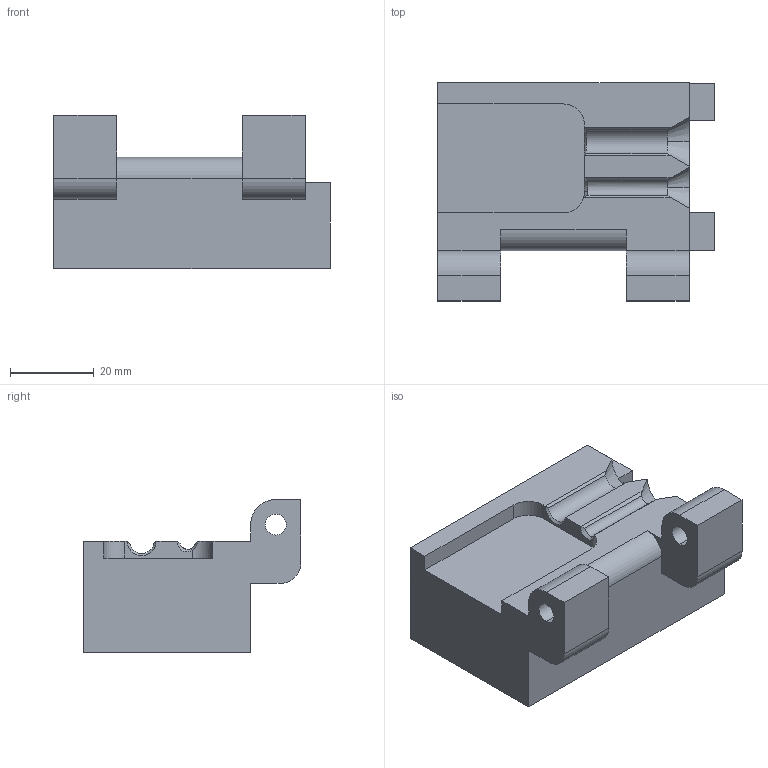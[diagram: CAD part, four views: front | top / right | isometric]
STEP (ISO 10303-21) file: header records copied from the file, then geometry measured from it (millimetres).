
FILE_DESCRIPTION (( 'STEP AP214' ), '1' );
FILE_NAME ('GZ47A.06_V1下压块.STEP', '2021-07-01T00:37:11', ( '微软中国' ), ( 'Microsoft' ), 'SwSTEP 2.0', 'SolidWorks 2017', '' );
FILE_SCHEMA (( 'AUTOMOTIVE_DESIGN' ));
Length unit declared in the file: millimetre
Products named in the file (1): GZ47A.06_V1狟揤輸
Bounding box: 66 x 52 x 36.5 mm (x, y, z)
Volume: 64295.4 mm3; surface area: 14823.6 mm2
Topology: 1 solids, 1 shells, 74 faces, 205 edges, 129 vertices
Faces by surface type: plane 38, cylinder 21, cone 14, bspline 1
Entity records: 2583 total; most frequent: CARTESIAN_POINT 591, ORIENTED_EDGE 394, DIRECTION 381, EDGE_CURVE 197, LINE 133, VECTOR 133, VERTEX_POINT 129, AXIS2_PLACEMENT_3D 124
